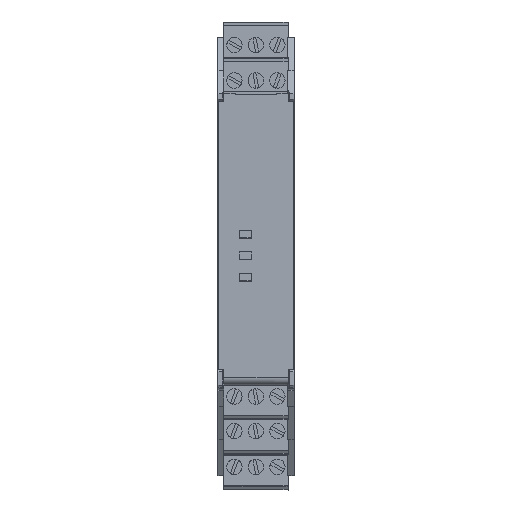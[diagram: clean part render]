
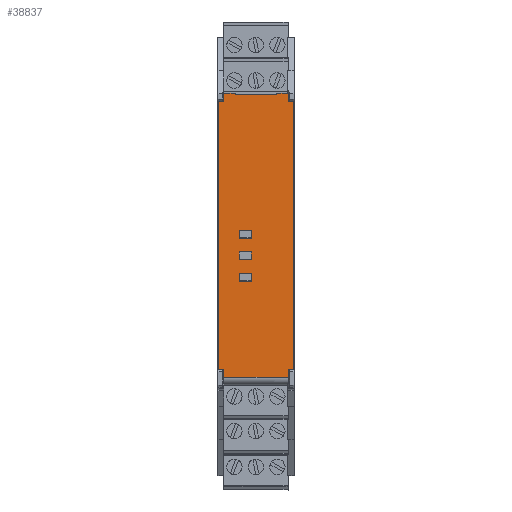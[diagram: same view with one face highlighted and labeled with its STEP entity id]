
A CAD part, top view. The second image highlights one B-rep face of the part: STEP entity #38837.
In plain terms, the highlighted planar face has unit normal (0, 0, 1).
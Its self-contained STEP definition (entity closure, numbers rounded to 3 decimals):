
#36978=CARTESIAN_POINT('',(16.325,-30.531,109.7));
#36979=VERTEX_POINT('',#36978);
#36986=CARTESIAN_POINT('',(16.325,-32.338,109.7));
#36987=VERTEX_POINT('',#36986);
#36988=CARTESIAN_POINT('',(16.325,-32.338,109.7));
#36989=DIRECTION('',(0.0,1.0,0.0));
#36990=VECTOR('',#36989,1.807);
#36991=LINE('',#36988,#36990);
#36992=EDGE_CURVE('',#36987,#36979,#36991,.T.);
#37018=CARTESIAN_POINT('',(16.335,33.579,109.7));
#37019=VERTEX_POINT('',#37018);
#37020=CARTESIAN_POINT('',(16.335,31.93,109.7));
#37021=VERTEX_POINT('',#37020);
#37022=CARTESIAN_POINT('',(16.335,33.579,109.7));
#37023=DIRECTION('',(0.0,-1.0,0.0));
#37024=VECTOR('',#37023,1.65);
#37025=LINE('',#37022,#37024);
#37026=EDGE_CURVE('',#37019,#37021,#37025,.T.);
#37595=CARTESIAN_POINT('',(1.375,31.93,109.7));
#37596=VERTEX_POINT('',#37595);
#37603=CARTESIAN_POINT('',(1.375,33.579,109.7));
#37604=VERTEX_POINT('',#37603);
#37605=CARTESIAN_POINT('',(1.375,33.579,109.7));
#37606=DIRECTION('',(0.0,-1.0,0.0));
#37607=VECTOR('',#37606,1.65);
#37608=LINE('',#37605,#37607);
#37609=EDGE_CURVE('',#37604,#37596,#37608,.T.);
#37751=CARTESIAN_POINT('',(13.685,33.579,109.7));
#37752=VERTEX_POINT('',#37751);
#37761=CARTESIAN_POINT('',(13.685,33.779,109.7));
#37762=VERTEX_POINT('',#37761);
#37763=CARTESIAN_POINT('',(13.685,33.579,109.7));
#37764=DIRECTION('',(0.0,1.0,0.0));
#37765=VECTOR('',#37764,0.2);
#37766=LINE('',#37763,#37765);
#37767=EDGE_CURVE('',#37752,#37762,#37766,.T.);
#37817=CARTESIAN_POINT('',(16.135,33.779,109.7));
#37818=VERTEX_POINT('',#37817);
#37825=CARTESIAN_POINT('',(16.135,33.579,109.7));
#37826=DIRECTION('',(0.0,0.0,-1.0));
#37827=DIRECTION('',(1.0,0.0,0.0));
#37828=AXIS2_PLACEMENT_3D('',#37825,#37826,#37827);
#37829=CIRCLE('',#37828,0.2);
#37830=EDGE_CURVE('',#37818,#37019,#37829,.T.);
#37843=CARTESIAN_POINT('',(4.025,33.579,109.7));
#37844=VERTEX_POINT('',#37843);
#37859=CARTESIAN_POINT('',(4.025,33.779,109.7));
#37860=VERTEX_POINT('',#37859);
#37867=CARTESIAN_POINT('',(4.025,33.779,109.7));
#37868=DIRECTION('',(0.0,-1.0,0.0));
#37869=VECTOR('',#37868,0.2);
#37870=LINE('',#37867,#37869);
#37871=EDGE_CURVE('',#37860,#37844,#37870,.T.);
#37881=CARTESIAN_POINT('',(1.575,33.779,109.7));
#37882=VERTEX_POINT('',#37881);
#37883=CARTESIAN_POINT('',(1.575,33.579,109.7));
#37884=DIRECTION('',(0.0,0.0,-1.0));
#37885=DIRECTION('',(1.0,0.0,0.0));
#37886=AXIS2_PLACEMENT_3D('',#37883,#37884,#37885);
#37887=CIRCLE('',#37886,0.2);
#37888=EDGE_CURVE('',#37604,#37882,#37887,.T.);
#38288=CARTESIAN_POINT('',(0.078,-30.531,109.7));
#38289=VERTEX_POINT('',#38288);
#38296=CARTESIAN_POINT('',(1.385,-30.531,109.7));
#38297=VERTEX_POINT('',#38296);
#38304=CARTESIAN_POINT('',(0.078,-30.531,109.7));
#38305=DIRECTION('',(1.0,0.0,0.0));
#38306=VECTOR('',#38305,1.307);
#38307=LINE('',#38304,#38306);
#38308=EDGE_CURVE('',#38289,#38297,#38307,.T.);
#38332=CARTESIAN_POINT('',(1.385,-32.338,109.7));
#38333=VERTEX_POINT('',#38332);
#38341=CARTESIAN_POINT('',(1.385,-30.531,109.7));
#38342=DIRECTION('',(0.0,-1.0,0.0));
#38343=VECTOR('',#38342,1.807);
#38344=LINE('',#38341,#38343);
#38345=EDGE_CURVE('',#38297,#38333,#38344,.T.);
#38392=CARTESIAN_POINT('',(1.385,-32.338,109.7));
#38393=DIRECTION('',(1.0,0.0,0.0));
#38394=VECTOR('',#38393,14.94);
#38395=LINE('',#38392,#38394);
#38396=EDGE_CURVE('',#38333,#36987,#38395,.T.);
#38416=CARTESIAN_POINT('',(17.632,-30.531,109.7));
#38417=VERTEX_POINT('',#38416);
#38424=CARTESIAN_POINT('',(16.325,-30.531,109.7));
#38425=DIRECTION('',(1.0,0.0,0.0));
#38426=VECTOR('',#38425,1.307);
#38427=LINE('',#38424,#38426);
#38428=EDGE_CURVE('',#36979,#38417,#38427,.T.);
#38438=CARTESIAN_POINT('',(16.135,33.779,109.7));
#38439=DIRECTION('',(-1.0,0.0,0.0));
#38440=VECTOR('',#38439,2.45);
#38441=LINE('',#38438,#38440);
#38442=EDGE_CURVE('',#37818,#37762,#38441,.T.);
#38461=CARTESIAN_POINT('',(4.025,33.779,109.7));
#38462=DIRECTION('',(-1.0,0.0,0.0));
#38463=VECTOR('',#38462,2.45);
#38464=LINE('',#38461,#38463);
#38465=EDGE_CURVE('',#37860,#37882,#38464,.T.);
#38482=CARTESIAN_POINT('',(7.775,-9.9,109.7));
#38483=VERTEX_POINT('',#38482);
#38491=CARTESIAN_POINT('',(4.975,-9.9,109.7));
#38492=VERTEX_POINT('',#38491);
#38499=CARTESIAN_POINT('',(7.775,-9.9,109.7));
#38500=DIRECTION('',(-1.0,0.0,0.0));
#38501=VECTOR('',#38500,2.8);
#38502=LINE('',#38499,#38501);
#38503=EDGE_CURVE('',#38483,#38492,#38502,.T.);
#38515=CARTESIAN_POINT('',(4.975,-8.1,109.7));
#38516=VERTEX_POINT('',#38515);
#38523=CARTESIAN_POINT('',(4.975,-9.9,109.7));
#38524=DIRECTION('',(0.0,1.0,0.0));
#38525=VECTOR('',#38524,1.8);
#38526=LINE('',#38523,#38525);
#38527=EDGE_CURVE('',#38492,#38516,#38526,.T.);
#38539=CARTESIAN_POINT('',(7.775,-8.1,109.7));
#38540=VERTEX_POINT('',#38539);
#38547=CARTESIAN_POINT('',(4.975,-8.1,109.7));
#38548=DIRECTION('',(1.0,0.0,0.0));
#38549=VECTOR('',#38548,2.8);
#38550=LINE('',#38547,#38549);
#38551=EDGE_CURVE('',#38516,#38540,#38550,.T.);
#38564=CARTESIAN_POINT('',(7.775,-8.1,109.7));
#38565=DIRECTION('',(0.0,-1.0,0.0));
#38566=VECTOR('',#38565,1.8);
#38567=LINE('',#38564,#38566);
#38568=EDGE_CURVE('',#38540,#38483,#38567,.T.);
#38578=CARTESIAN_POINT('',(4.975,-3.1,109.7));
#38579=VERTEX_POINT('',#38578);
#38587=CARTESIAN_POINT('',(7.775,-3.1,109.7));
#38588=VERTEX_POINT('',#38587);
#38595=CARTESIAN_POINT('',(4.975,-3.1,109.7));
#38596=DIRECTION('',(1.0,0.0,0.0));
#38597=VECTOR('',#38596,2.8);
#38598=LINE('',#38595,#38597);
#38599=EDGE_CURVE('',#38579,#38588,#38598,.T.);
#38611=CARTESIAN_POINT('',(7.775,-4.9,109.7));
#38612=VERTEX_POINT('',#38611);
#38619=CARTESIAN_POINT('',(7.775,-3.1,109.7));
#38620=DIRECTION('',(0.0,-1.0,0.0));
#38621=VECTOR('',#38620,1.8);
#38622=LINE('',#38619,#38621);
#38623=EDGE_CURVE('',#38588,#38612,#38622,.T.);
#38635=CARTESIAN_POINT('',(4.975,-4.9,109.7));
#38636=VERTEX_POINT('',#38635);
#38643=CARTESIAN_POINT('',(7.775,-4.9,109.7));
#38644=DIRECTION('',(-1.0,0.0,0.0));
#38645=VECTOR('',#38644,2.8);
#38646=LINE('',#38643,#38645);
#38647=EDGE_CURVE('',#38612,#38636,#38646,.T.);
#38660=CARTESIAN_POINT('',(4.975,-4.9,109.7));
#38661=DIRECTION('',(0.0,1.0,0.0));
#38662=VECTOR('',#38661,1.8);
#38663=LINE('',#38660,#38662);
#38664=EDGE_CURVE('',#38636,#38579,#38663,.T.);
#38674=CARTESIAN_POINT('',(4.975,1.9,109.7));
#38675=VERTEX_POINT('',#38674);
#38683=CARTESIAN_POINT('',(7.775,1.9,109.7));
#38684=VERTEX_POINT('',#38683);
#38691=CARTESIAN_POINT('',(4.975,1.9,109.7));
#38692=DIRECTION('',(1.0,0.0,0.0));
#38693=VECTOR('',#38692,2.8);
#38694=LINE('',#38691,#38693);
#38695=EDGE_CURVE('',#38675,#38684,#38694,.T.);
#38707=CARTESIAN_POINT('',(7.775,0.1,109.7));
#38708=VERTEX_POINT('',#38707);
#38715=CARTESIAN_POINT('',(7.775,1.9,109.7));
#38716=DIRECTION('',(0.0,-1.0,0.0));
#38717=VECTOR('',#38716,1.8);
#38718=LINE('',#38715,#38717);
#38719=EDGE_CURVE('',#38684,#38708,#38718,.T.);
#38731=CARTESIAN_POINT('',(4.975,0.1,109.7));
#38732=VERTEX_POINT('',#38731);
#38739=CARTESIAN_POINT('',(7.775,0.1,109.7));
#38740=DIRECTION('',(-1.0,0.0,0.0));
#38741=VECTOR('',#38740,2.8);
#38742=LINE('',#38739,#38741);
#38743=EDGE_CURVE('',#38708,#38732,#38742,.T.);
#38756=CARTESIAN_POINT('',(4.975,0.1,109.7));
#38757=DIRECTION('',(0.0,1.0,0.0));
#38758=VECTOR('',#38757,1.8);
#38759=LINE('',#38756,#38758);
#38760=EDGE_CURVE('',#38732,#38675,#38759,.T.);
#38765=CARTESIAN_POINT('',(6.135,8.43,109.7));
#38766=DIRECTION('',(0.0,0.0,1.0));
#38767=DIRECTION('',(1.0,0.0,0.0));
#38768=AXIS2_PLACEMENT_3D('',#38765,#38766,#38767);
#38769=PLANE('',#38768);
#38770=ORIENTED_EDGE('',*,*,#37767,.F.);
#38771=CARTESIAN_POINT('',(13.685,33.579,109.7));
#38772=DIRECTION('',(-1.0,0.0,0.0));
#38773=VECTOR('',#38772,9.66);
#38774=LINE('',#38771,#38773);
#38775=EDGE_CURVE('',#37752,#37844,#38774,.T.);
#38776=ORIENTED_EDGE('',*,*,#38775,.T.);
#38777=ORIENTED_EDGE('',*,*,#37871,.F.);
#38778=ORIENTED_EDGE('',*,*,#38465,.T.);
#38779=ORIENTED_EDGE('',*,*,#37888,.F.);
#38780=ORIENTED_EDGE('',*,*,#37609,.T.);
#38781=CARTESIAN_POINT('',(0.078,31.93,109.7));
#38782=VERTEX_POINT('',#38781);
#38783=CARTESIAN_POINT('',(1.375,31.93,109.7));
#38784=DIRECTION('',(-1.0,0.0,0.0));
#38785=VECTOR('',#38784,1.297);
#38786=LINE('',#38783,#38785);
#38787=EDGE_CURVE('',#37596,#38782,#38786,.T.);
#38788=ORIENTED_EDGE('',*,*,#38787,.T.);
#38789=CARTESIAN_POINT('',(0.078,-30.531,109.7));
#38790=DIRECTION('',(0.0,1.0,0.0));
#38791=VECTOR('',#38790,62.46);
#38792=LINE('',#38789,#38791);
#38793=EDGE_CURVE('',#38289,#38782,#38792,.T.);
#38794=ORIENTED_EDGE('',*,*,#38793,.F.);
#38795=ORIENTED_EDGE('',*,*,#38308,.T.);
#38796=ORIENTED_EDGE('',*,*,#38345,.T.);
#38797=ORIENTED_EDGE('',*,*,#38396,.T.);
#38798=ORIENTED_EDGE('',*,*,#36992,.T.);
#38799=ORIENTED_EDGE('',*,*,#38428,.T.);
#38800=CARTESIAN_POINT('',(17.632,31.93,109.7));
#38801=VERTEX_POINT('',#38800);
#38802=CARTESIAN_POINT('',(17.632,-30.531,109.7));
#38803=DIRECTION('',(0.0,1.0,0.0));
#38804=VECTOR('',#38803,62.46);
#38805=LINE('',#38802,#38804);
#38806=EDGE_CURVE('',#38417,#38801,#38805,.T.);
#38807=ORIENTED_EDGE('',*,*,#38806,.T.);
#38808=CARTESIAN_POINT('',(17.632,31.93,109.7));
#38809=DIRECTION('',(-1.0,0.0,0.0));
#38810=VECTOR('',#38809,1.297);
#38811=LINE('',#38808,#38810);
#38812=EDGE_CURVE('',#38801,#37021,#38811,.T.);
#38813=ORIENTED_EDGE('',*,*,#38812,.T.);
#38814=ORIENTED_EDGE('',*,*,#37026,.F.);
#38815=ORIENTED_EDGE('',*,*,#37830,.F.);
#38816=ORIENTED_EDGE('',*,*,#38442,.T.);
#38817=EDGE_LOOP('',(#38770,#38776,#38777,#38778,#38779,#38780,#38788,#38794,#38795,#38796,#38797,#38798,#38799,#38807,#38813,#38814,#38815,#38816));
#38818=FACE_OUTER_BOUND('',#38817,.T.);
#38819=ORIENTED_EDGE('',*,*,#38551,.T.);
#38820=ORIENTED_EDGE('',*,*,#38568,.T.);
#38821=ORIENTED_EDGE('',*,*,#38503,.T.);
#38822=ORIENTED_EDGE('',*,*,#38527,.T.);
#38823=EDGE_LOOP('',(#38819,#38820,#38821,#38822));
#38824=FACE_BOUND('',#38823,.T.);
#38825=ORIENTED_EDGE('',*,*,#38647,.T.);
#38826=ORIENTED_EDGE('',*,*,#38664,.T.);
#38827=ORIENTED_EDGE('',*,*,#38599,.T.);
#38828=ORIENTED_EDGE('',*,*,#38623,.T.);
#38829=EDGE_LOOP('',(#38825,#38826,#38827,#38828));
#38830=FACE_BOUND('',#38829,.T.);
#38831=ORIENTED_EDGE('',*,*,#38743,.T.);
#38832=ORIENTED_EDGE('',*,*,#38760,.T.);
#38833=ORIENTED_EDGE('',*,*,#38695,.T.);
#38834=ORIENTED_EDGE('',*,*,#38719,.T.);
#38835=EDGE_LOOP('',(#38831,#38832,#38833,#38834));
#38836=FACE_BOUND('',#38835,.T.);
#38837=ADVANCED_FACE('',(#38818,#38824,#38830,#38836),#38769,.T.);
